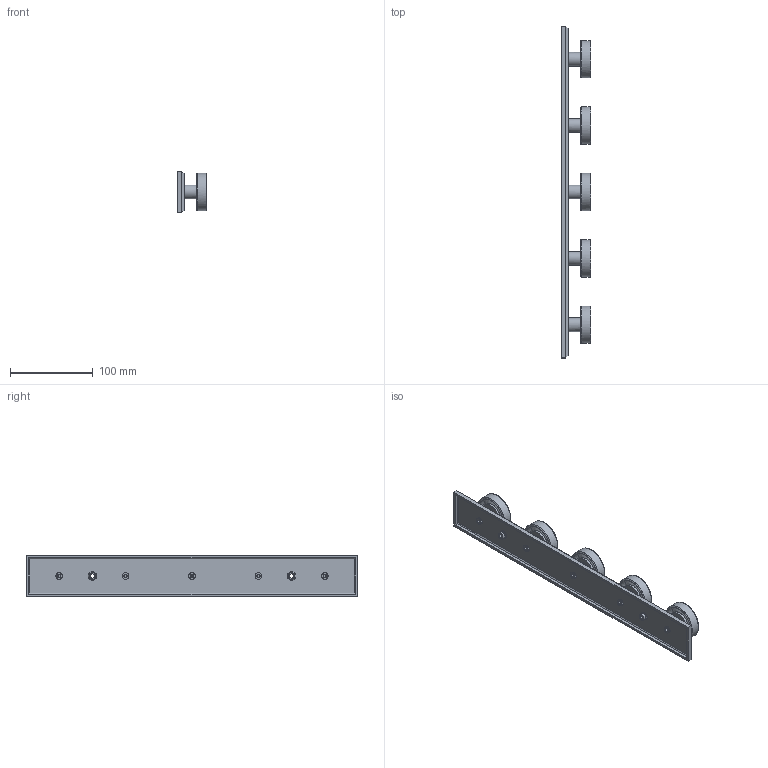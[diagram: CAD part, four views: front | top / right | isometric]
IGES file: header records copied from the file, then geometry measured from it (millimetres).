
Start section: C
Global section: file name: 8185-400.igs; native system: By Siemens PLM Incorporated; preprocessor: XPlus GENERIC/IGES 16.0.42; author: Author; organization: Title; date: 20231119.093738; units: millimetre
Bounding box: 35.28 x 400 x 50 mm (x, y, z)
Surface area: 103230.7 mm2 (no closed solid volume)
Topology: 0 solids, 0 shells, 286 faces, 1579 edges, 1574 vertices
Faces by surface type: bspline 286
